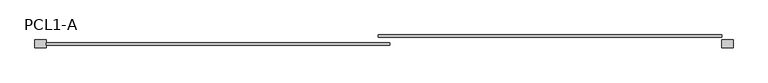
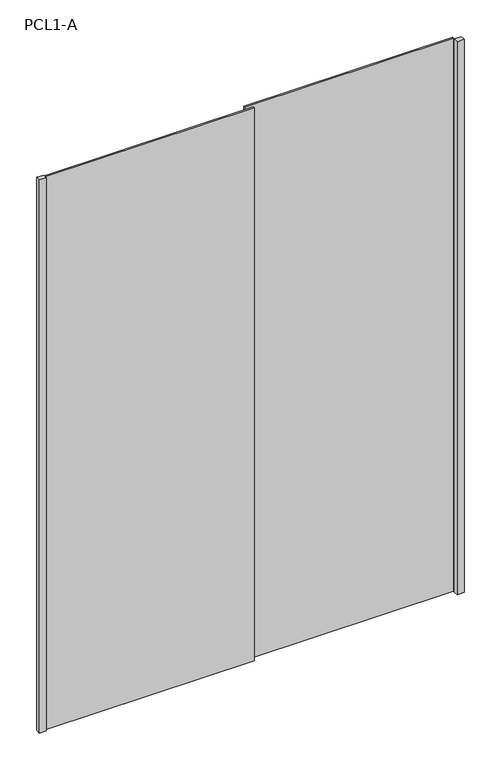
"""IFC4 building model written with IfcOpenShell, lengths in millimetres: furniture geometry, Puerta Closet corre 2 hojas : PCL1-A."""

from ifc_helpers import new_model, si_unit, origin, origin_with_axes, place, context, project, spatial, polyline, outline, extrude, source, transform, mapped, element, save


def pcl1_a_f32ef64c(model_context):
    return source(origin(), model_context, "Body", "SweptSolid", [
        extrude(outline(polyline([(375.0, 80.0), (345.0, 80.0), (345.0, 100.0), (375.0, 100.0), (375.0, 80.0)])), origin_with_axes(), (0.0, 0.0, 1.0), 2520.0),
        extrude(outline(polyline([(345.0, 106.6666667), (-555.0, 106.6666667), (-555.0, 113.3333333), (345.0, 113.3333333), (345.0, 106.6666667)])), origin_with_axes(), (0.0, 0.0, 1.0), 2520.0),
        extrude(outline(polyline([(-525.0, 86.6666667), (-1425.0, 86.6666667), (-1425.0, 93.3333333), (-525.0, 93.3333333), (-525.0, 86.6666667)])), origin_with_axes(), (0.0, 0.0, 1.0), 2520.0),
        extrude(outline(polyline([(-1455.0, 80.0), (-1455.0, 100.0), (-1425.0, 100.0), (-1425.0, 80.0), (-1455.0, 80.0)])), origin_with_axes(), (0.0, 0.0, 1.0), 2520.0),
    ])


if __name__ == "__main__":
    model = new_model("IFC4")
    model_context = context("Model", 3, world=origin())
    ifc_project = project(units=[si_unit("LENGTHUNIT", "METRE", prefix="MILLI")], contexts=[model_context])
    site = spatial("IfcSite", under=ifc_project)
    building = spatial("IfcBuilding", under=site)
    placement = place(None, origin())
    pcl1_a_shape = pcl1_a_f32ef64c(model_context)
    element("IfcFurniture", 1, ObjectType="Puerta Closet corre 2 hojas : PCL1-A", at=placement, inside=building, context=model_context, shape_type="MappedRepresentation", body=[
        mapped(pcl1_a_shape, transform((0.0, 0.0, 0.0), x_axis=(1.0, 0.0, 0.0), y_axis=(0.0, 1.0, 0.0), z_axis=(0.0, 0.0, 1.0))),
    ])
    save(model, "model.ifc")
